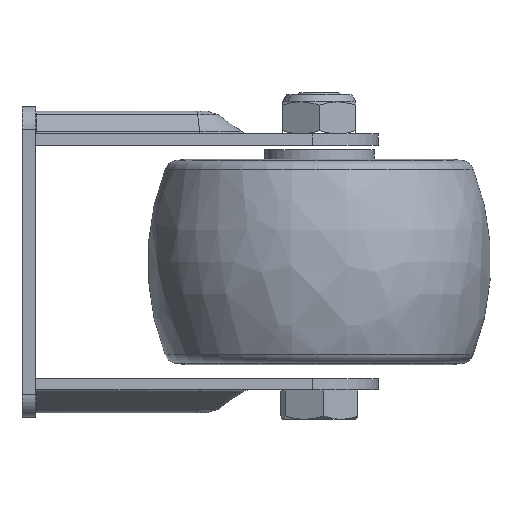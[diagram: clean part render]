
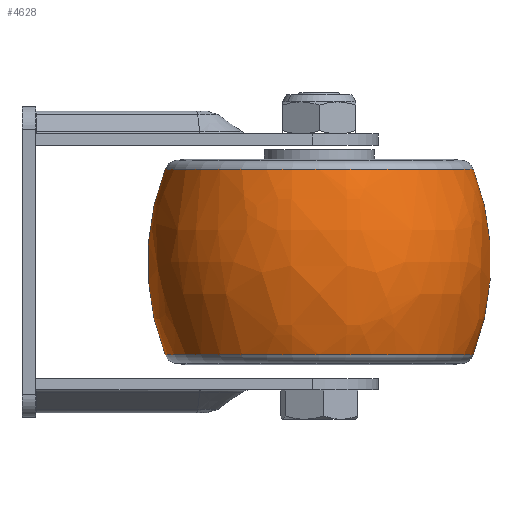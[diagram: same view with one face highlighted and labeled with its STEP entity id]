
A CAD part, left-side view. The second image highlights one B-rep face of the part: STEP entity #4628.
In plain terms, the highlighted free-form (B-spline) face has degree [3, 3] with [7, 4] control points.
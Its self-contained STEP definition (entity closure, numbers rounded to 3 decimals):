
#4296=CARTESIAN_POINT('',(-66.,38.451,-22.185));
#4297=DIRECTION('',(0.,0.,1.));
#4298=DIRECTION('',(0.001,1.,0.));
#4299=AXIS2_PLACEMENT_3D('',#4296,#4297,#4298);
#4301=CARTESIAN_POINT('',(-65.983,56.979,-42.5));
#4302=DIRECTION('',(-1.,0.001,0.));
#4303=DIRECTION('',(-0.001,-0.932,-0.363));
#4304=AXIS2_PLACEMENT_3D('',#4301,#4302,#4303);
#4306=CARTESIAN_POINT('',(-66.,38.451,-62.815));
#4307=DIRECTION('',(0.,0.,1.));
#4308=DIRECTION('',(0.001,1.,0.));
#4309=AXIS2_PLACEMENT_3D('',#4306,#4307,#4308);
#4311=CARTESIAN_POINT('',(-66.017,19.923,-42.5));
#4312=DIRECTION('',(1.,-0.001,0.));
#4313=DIRECTION('',(0.001,0.932,-0.363));
#4314=AXIS2_PLACEMENT_3D('',#4311,#4312,#4313);
#4432=CARTESIAN_POINT('',(-65.969,72.138,
-22.185));
#4433=CARTESIAN_POINT('',(-66.031,4.764,
-22.185));
#4434=VERTEX_POINT('',#4432);
#4435=VERTEX_POINT('',#4433);
#4436=CARTESIAN_POINT('',(-65.969,72.138,
-62.815));
#4437=CARTESIAN_POINT('',(-66.031,4.764,
-62.815));
#4438=VERTEX_POINT('',#4436);
#4439=VERTEX_POINT('',#4437);
#4592=CARTESIAN_POINT('',(-63.934,5.135,
-21.412));
#4593=CARTESIAN_POINT('',(-63.59,-0.418,
-35.108));
#4594=CARTESIAN_POINT('',(-63.59,-0.418,
-49.892));
#4595=CARTESIAN_POINT('',(-63.934,5.135,
-63.588));
#4596=CARTESIAN_POINT('',(-84.437,3.864,
-21.412));
#4597=CARTESIAN_POINT('',(-87.51,-1.901,
-35.108));
#4598=CARTESIAN_POINT('',(-87.51,-1.901,
-49.892));
#4599=CARTESIAN_POINT('',(-84.437,3.864,
-63.588));
#4600=CARTESIAN_POINT('',(-99.399,17.94,
-21.412));
#4601=CARTESIAN_POINT('',(-104.966,14.52,
-35.108));
#4602=CARTESIAN_POINT('',(-104.966,14.52,
-49.892));
#4603=CARTESIAN_POINT('',(-99.399,17.94,
-63.588));
#4604=CARTESIAN_POINT('',(-99.38,38.482,
-21.412));
#4605=CARTESIAN_POINT('',(-104.944,38.487,
-35.108));
#4606=CARTESIAN_POINT('',(-104.944,38.487,
-49.892));
#4607=CARTESIAN_POINT('',(-99.38,38.482,
-63.588));
#4608=CARTESIAN_POINT('',(-99.361,59.023,
-21.412));
#4609=CARTESIAN_POINT('',(-104.922,62.453,
-35.108));
#4610=CARTESIAN_POINT('',(-104.922,62.453,
-49.892));
#4611=CARTESIAN_POINT('',(-99.361,59.023,
-63.588));
#4612=CARTESIAN_POINT('',(-84.374,73.072,
-21.412));
#4613=CARTESIAN_POINT('',(-87.437,78.843,
-35.108));
#4614=CARTESIAN_POINT('',(-87.437,78.843,
-49.892));
#4615=CARTESIAN_POINT('',(-84.374,73.072,
-63.588));
#4616=CARTESIAN_POINT('',(-63.874,71.763,
-21.412));
#4617=CARTESIAN_POINT('',(-63.519,77.316,
-35.108));
#4618=CARTESIAN_POINT('',(-63.519,77.316,
-49.892));
#4619=CARTESIAN_POINT('',(-63.874,71.763,
-63.588));
#4620=(BOUNDED_SURFACE()B_SPLINE_SURFACE(3,3,((#4592,#4593,#4594,#4595),(#4596,
#4597,#4598,#4599),(#4600,#4601,#4602,#4603),(#4604,#4605,#4606,#4607),(#4608,
#4609,#4610,#4611),(#4612,#4613,#4614,#4615),(#4616,#4617,#4618,#4619)),
.UNSPECIFIED.,.F.,.F.,.F.)B_SPLINE_SURFACE_WITH_KNOTS((4,3,4),(4,4),(0.,1.,
2.),(0.,1.),.UNSPECIFIED.)GEOMETRIC_REPRESENTATION_ITEM()RATIONAL_B_SPLINE_SURFACE(((1.233,1.172,1.172,1.233),(
0.973,0.926,0.926,0.973),(
0.973,0.926,0.926,0.973),(
1.233,1.172,1.172,1.233),(
0.973,0.926,0.926,0.973),(
0.973,0.926,0.926,0.973),(
1.233,1.172,1.172,1.233)))REPRESENTATION_ITEM('')SURFACE());
#4621=ORIENTED_EDGE('',*,*,#4579,.T.);
#4622=ORIENTED_EDGE('',*,*,#4495,.F.);
#4624=ORIENTED_EDGE('',*,*,#4623,.F.);
#4625=ORIENTED_EDGE('',*,*,#4491,.T.);
#4626=EDGE_LOOP('',(#4621,#4622,#4624,#4625));
#4627=FACE_OUTER_BOUND('',#4626,.F.);
#4300=CIRCLE('',#4299,33.687);
#4305=CIRCLE('',#4304,56.028);
#4310=CIRCLE('',#4309,33.687);
#4315=CIRCLE('',#4314,56.028);
#4491=EDGE_CURVE('',#4438,#4434,#4315,.T.);
#4495=EDGE_CURVE('',#4439,#4435,#4305,.T.);
#4579=EDGE_CURVE('',#4434,#4435,#4300,.T.);
#4623=EDGE_CURVE('',#4438,#4439,#4310,.T.);
#4628=ADVANCED_FACE('',(#4627),#4620,.T.);
